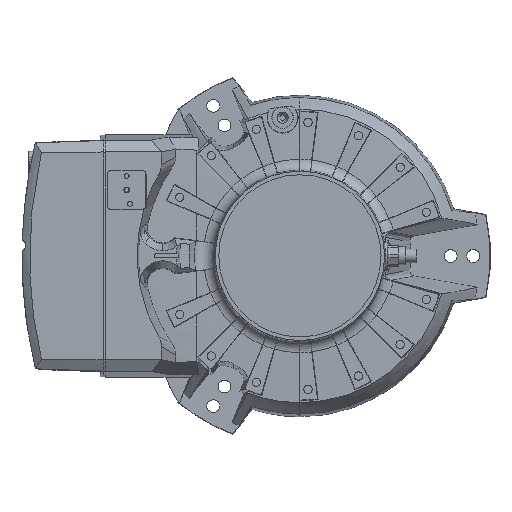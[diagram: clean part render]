
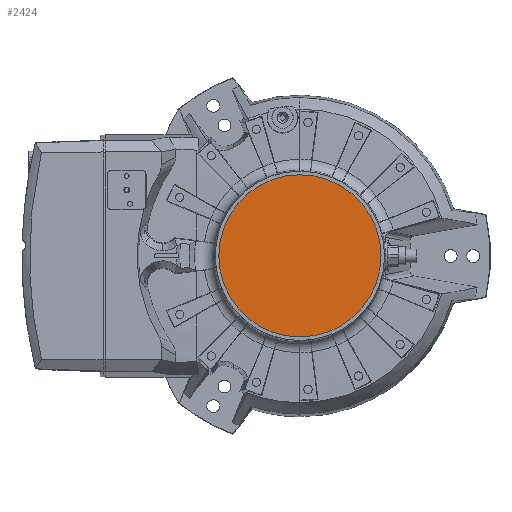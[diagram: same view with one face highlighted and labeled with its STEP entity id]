
A CAD part, top view. The second image highlights one B-rep face of the part: STEP entity #2424.
In plain terms, the highlighted planar face has unit normal (0, 0, 1).
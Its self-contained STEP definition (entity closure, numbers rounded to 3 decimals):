
#185 = DIRECTION ( 'NONE',  ( -1., 0., 0. ) ) ;
#186 = DIRECTION ( 'NONE',  ( 0., 0., 1. ) ) ;
#187 = CARTESIAN_POINT ( 'NONE',  ( 0., 0., 159.5 ) ) ;
#817 = DIRECTION ( 'NONE',  ( -1., 0., 0. ) ) ;
#818 = DIRECTION ( 'NONE',  ( 0., 0., 1. ) ) ;
#819 = CARTESIAN_POINT ( 'NONE',  ( 0., 0., 159.5 ) ) ;
#1620 = FACE_OUTER_BOUND ( 'NONE', #4530, .T. ) ;
#2424 = ADVANCED_FACE ( 'NONE', ( #1620 ), #15119, .F. ) ;
#4530 = EDGE_LOOP ( 'NONE', ( #15559, #16822 ) ) ;
#5222 = VERTEX_POINT ( 'NONE', #24366 ) ;
#6020 = VERTEX_POINT ( 'NONE', #25043 ) ;
#8924 = AXIS2_PLACEMENT_3D ( 'NONE', #187, #186, #185 ) ;
#9346 = AXIS2_PLACEMENT_3D ( 'NONE', #819, #818, #817 ) ;
#12888 = CIRCLE ( 'NONE', #9346, 117. ) ;
#13050 = CIRCLE ( 'NONE', #8924, 117. ) ;
#13912 = EDGE_CURVE ( 'NONE', #5222, #6020, #12888, .T. ) ;
#14032 = EDGE_CURVE ( 'NONE', #6020, #5222, #13050, .T. ) ;
#15113 = DIRECTION ( 'NONE',  ( 1., 0., 0. ) ) ;
#15114 = DIRECTION ( 'NONE',  ( 0., 0., -1. ) ) ;
#15119 = PLANE ( 'NONE',  #18822 ) ;
#15160 = CARTESIAN_POINT ( 'NONE',  ( -116.2, 0., 159.5 ) ) ;
#15559 = ORIENTED_EDGE ( 'NONE', *, *, #13912, .T. ) ;
#16822 = ORIENTED_EDGE ( 'NONE', *, *, #14032, .T. ) ;
#18822 = AXIS2_PLACEMENT_3D ( 'NONE', #15160, #15114, #15113 ) ;
#24366 = CARTESIAN_POINT ( 'NONE',  ( -117., 0., 159.5 ) ) ;
#25043 = CARTESIAN_POINT ( 'NONE',  ( 117., 0., 159.5 ) ) ;
